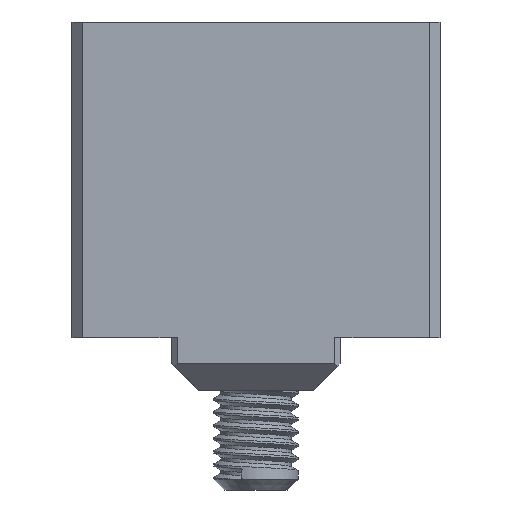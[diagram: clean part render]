
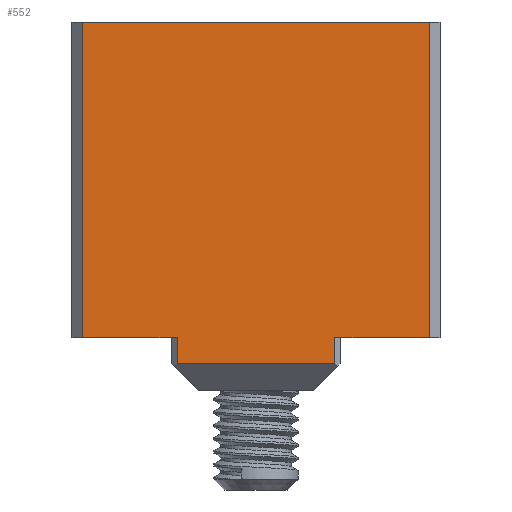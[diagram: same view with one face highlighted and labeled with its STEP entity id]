
A CAD part, front view. The second image highlights one B-rep face of the part: STEP entity #552.
In plain terms, the highlighted planar face has unit normal (0, -1, 0).
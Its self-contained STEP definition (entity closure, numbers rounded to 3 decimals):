
#257=LINE('',#7416,#419);
#263=LINE('',#7428,#425);
#271=LINE('',#7445,#433);
#272=LINE('',#7446,#434);
#273=LINE('',#7448,#435);
#274=LINE('',#7450,#436);
#275=LINE('',#7452,#437);
#276=LINE('',#7454,#438);
#419=VECTOR('',#2103,1.);
#425=VECTOR('',#2111,1.);
#433=VECTOR('',#2121,1.);
#434=VECTOR('',#2122,1.);
#435=VECTOR('',#2123,1.);
#436=VECTOR('',#2124,1.);
#437=VECTOR('',#2125,1.);
#438=VECTOR('',#2126,1.);
#552=ADVANCED_FACE('',(#693),#625,.T.);
#625=PLANE('',#1797);
#693=FACE_OUTER_BOUND('',#799,.T.);
#799=EDGE_LOOP('',(#1129,#1130,#1131,#1132,#1133,#1134,#1135,#1136));
#1129=ORIENTED_EDGE('',*,*,#1611,.T.);
#1130=ORIENTED_EDGE('',*,*,#1625,.T.);
#1131=ORIENTED_EDGE('',*,*,#1617,.T.);
#1132=ORIENTED_EDGE('',*,*,#1626,.T.);
#1133=ORIENTED_EDGE('',*,*,#1627,.T.);
#1134=ORIENTED_EDGE('',*,*,#1628,.F.);
#1135=ORIENTED_EDGE('',*,*,#1629,.F.);
#1136=ORIENTED_EDGE('',*,*,#1630,.F.);
#1419=VERTEX_POINT('',#7415);
#1420=VERTEX_POINT('',#7417);
#1425=VERTEX_POINT('',#7429);
#1426=VERTEX_POINT('',#7430);
#1433=VERTEX_POINT('',#7447);
#1434=VERTEX_POINT('',#7449);
#1435=VERTEX_POINT('',#7451);
#1436=VERTEX_POINT('',#7453);
#1611=EDGE_CURVE('',#1420,#1419,#257,.T.);
#1617=EDGE_CURVE('',#1425,#1426,#263,.T.);
#1625=EDGE_CURVE('',#1419,#1425,#271,.T.);
#1626=EDGE_CURVE('',#1426,#1433,#272,.T.);
#1627=EDGE_CURVE('',#1433,#1434,#273,.T.);
#1628=EDGE_CURVE('',#1435,#1434,#274,.T.);
#1629=EDGE_CURVE('',#1436,#1435,#275,.T.);
#1630=EDGE_CURVE('',#1420,#1436,#276,.T.);
#1797=AXIS2_PLACEMENT_3D('',#7455,#2127,#2128);
#2103=DIRECTION('',(1.,0.,0.));
#2111=DIRECTION('',(-1.,0.,0.));
#2121=DIRECTION('',(0.,0.,1.));
#2122=DIRECTION('',(0.,0.,-1.));
#2123=DIRECTION('',(1.,0.,0.));
#2124=DIRECTION('',(0.,0.,1.));
#2125=DIRECTION('',(-1.,0.,0.));
#2126=DIRECTION('',(0.,0.,-1.));
#2127=DIRECTION('',(0.,-1.,0.));
#2128=DIRECTION('',(0.,0.,-1.));
#7415=CARTESIAN_POINT('',(-36.,-133.5,17.));
#7416=CARTESIAN_POINT('',(-50.75,-133.5,17.));
#7417=CARTESIAN_POINT('',(-45.,-133.5,17.));
#7428=CARTESIAN_POINT('',(-50.75,-133.5,47.));
#7429=CARTESIAN_POINT('',(-36.,-133.5,47.));
#7430=CARTESIAN_POINT('',(-69.,-133.5,47.));
#7445=CARTESIAN_POINT('',(-36.,-133.5,17.25));
#7446=CARTESIAN_POINT('',(-69.,-133.5,17.25));
#7447=CARTESIAN_POINT('',(-69.,-133.5,17.));
#7448=CARTESIAN_POINT('',(-50.75,-133.5,17.));
#7449=CARTESIAN_POINT('',(-60.,-133.5,17.));
#7450=CARTESIAN_POINT('',(-60.,-133.5,-24.));
#7451=CARTESIAN_POINT('',(-60.,-133.5,14.5));
#7452=CARTESIAN_POINT('',(-58.,-133.5,14.5));
#7453=CARTESIAN_POINT('',(-45.,-133.5,14.5));
#7454=CARTESIAN_POINT('',(-45.,-133.5,14.5));
#7455=CARTESIAN_POINT('',(-50.75,-133.5,17.25));
